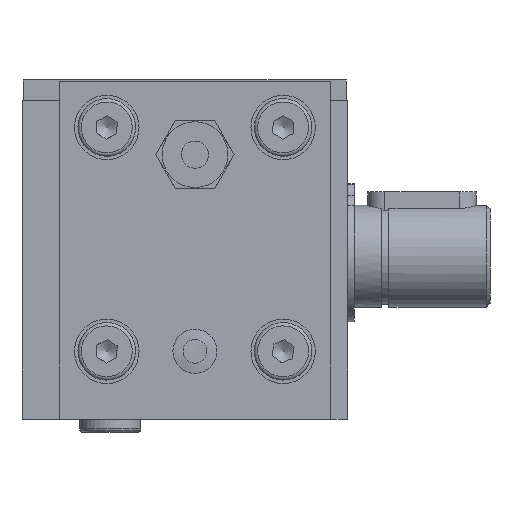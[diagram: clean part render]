
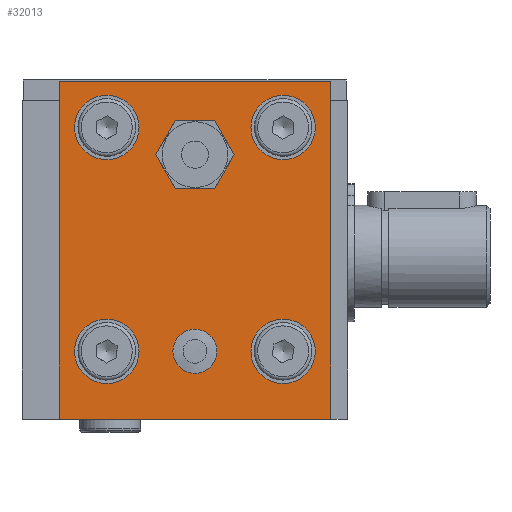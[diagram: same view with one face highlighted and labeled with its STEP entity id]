
A CAD part, front view. The second image highlights one B-rep face of the part: STEP entity #32013.
In plain terms, the highlighted planar face has unit normal (0, -1, 0).
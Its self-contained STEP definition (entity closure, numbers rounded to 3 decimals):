
#1667=LINE('',#43637,#4352);
#1668=LINE('',#43639,#4353);
#1669=LINE('',#43641,#4354);
#1670=LINE('',#43642,#4355);
#4352=VECTOR('',#36257,10.);
#4353=VECTOR('',#36258,10.);
#4354=VECTOR('',#36259,10.);
#4355=VECTOR('',#36260,10.);
#7134=FACE_BOUND('',#8952,.T.);
#7135=FACE_BOUND('',#8953,.T.);
#7136=FACE_BOUND('',#8954,.T.);
#7137=FACE_BOUND('',#8955,.T.);
#7138=FACE_BOUND('',#8956,.T.);
#7139=FACE_BOUND('',#8957,.T.);
#7280=FACE_OUTER_BOUND('',#8951,.T.);
#8951=EDGE_LOOP('',(#19524,#19525,#19526,#19527));
#8952=EDGE_LOOP('',(#19528,#19529));
#8953=EDGE_LOOP('',(#19530,#19531));
#8954=EDGE_LOOP('',(#19532,#19533));
#8955=EDGE_LOOP('',(#19534,#19535));
#8956=EDGE_LOOP('',(#19536,#19537));
#8957=EDGE_LOOP('',(#19538));
#10662=CIRCLE('',#33727,3.25);
#10663=CIRCLE('',#33728,3.25);
#10705=CIRCLE('',#33808,4.8);
#10706=CIRCLE('',#33818,4.75);
#10707=CIRCLE('',#33819,4.75);
#10708=CIRCLE('',#33820,4.75);
#10709=CIRCLE('',#33821,4.75);
#10710=CIRCLE('',#33822,4.75);
#10711=CIRCLE('',#33823,4.75);
#10712=CIRCLE('',#33824,4.75);
#10713=CIRCLE('',#33825,4.75);
#11256=VERTEX_POINT('',#43205);
#11257=VERTEX_POINT('',#43206);
#11349=VERTEX_POINT('',#43563);
#11362=VERTEX_POINT('',#43635);
#11363=VERTEX_POINT('',#43636);
#11364=VERTEX_POINT('',#43638);
#11365=VERTEX_POINT('',#43640);
#11366=VERTEX_POINT('',#43643);
#11367=VERTEX_POINT('',#43644);
#11368=VERTEX_POINT('',#43647);
#11369=VERTEX_POINT('',#43648);
#11370=VERTEX_POINT('',#43651);
#11371=VERTEX_POINT('',#43652);
#11372=VERTEX_POINT('',#43655);
#11373=VERTEX_POINT('',#43656);
#14476=EDGE_CURVE('',#11256,#11257,#10662,.T.);
#14477=EDGE_CURVE('',#11257,#11256,#10663,.T.);
#14604=EDGE_CURVE('',#11349,#11349,#10705,.T.);
#14627=EDGE_CURVE('',#11362,#11363,#1667,.T.);
#14628=EDGE_CURVE('',#11364,#11362,#1668,.T.);
#14629=EDGE_CURVE('',#11365,#11364,#1669,.T.);
#14630=EDGE_CURVE('',#11363,#11365,#1670,.T.);
#14631=EDGE_CURVE('',#11366,#11367,#10706,.T.);
#14632=EDGE_CURVE('',#11367,#11366,#10707,.T.);
#14633=EDGE_CURVE('',#11368,#11369,#10708,.T.);
#14634=EDGE_CURVE('',#11369,#11368,#10709,.T.);
#14635=EDGE_CURVE('',#11370,#11371,#10710,.T.);
#14636=EDGE_CURVE('',#11371,#11370,#10711,.T.);
#14637=EDGE_CURVE('',#11372,#11373,#10712,.T.);
#14638=EDGE_CURVE('',#11373,#11372,#10713,.T.);
#19524=ORIENTED_EDGE('',*,*,#14627,.F.);
#19525=ORIENTED_EDGE('',*,*,#14628,.F.);
#19526=ORIENTED_EDGE('',*,*,#14629,.F.);
#19527=ORIENTED_EDGE('',*,*,#14630,.F.);
#19528=ORIENTED_EDGE('',*,*,#14476,.T.);
#19529=ORIENTED_EDGE('',*,*,#14477,.T.);
#19530=ORIENTED_EDGE('',*,*,#14631,.T.);
#19531=ORIENTED_EDGE('',*,*,#14632,.T.);
#19532=ORIENTED_EDGE('',*,*,#14633,.T.);
#19533=ORIENTED_EDGE('',*,*,#14634,.T.);
#19534=ORIENTED_EDGE('',*,*,#14635,.T.);
#19535=ORIENTED_EDGE('',*,*,#14636,.T.);
#19536=ORIENTED_EDGE('',*,*,#14637,.T.);
#19537=ORIENTED_EDGE('',*,*,#14638,.T.);
#19538=ORIENTED_EDGE('',*,*,#14604,.T.);
#28885=PLANE('',#33817);
#32013=ADVANCED_FACE('',(#7280,#7134,#7135,#7136,#7137,#7138,#7139),#28885,
 .F.);
#33727=AXIS2_PLACEMENT_3D('',#43207,#36016,#36017);
#33728=AXIS2_PLACEMENT_3D('',#43208,#36018,#36019);
#33808=AXIS2_PLACEMENT_3D('',#43565,#36228,#36229);
#33817=AXIS2_PLACEMENT_3D('',#43634,#36255,#36256);
#33818=AXIS2_PLACEMENT_3D('',#43645,#36261,#36262);
#33819=AXIS2_PLACEMENT_3D('',#43646,#36263,#36264);
#33820=AXIS2_PLACEMENT_3D('',#43649,#36265,#36266);
#33821=AXIS2_PLACEMENT_3D('',#43650,#36267,#36268);
#33822=AXIS2_PLACEMENT_3D('',#43653,#36269,#36270);
#33823=AXIS2_PLACEMENT_3D('',#43654,#36271,#36272);
#33824=AXIS2_PLACEMENT_3D('',#43657,#36273,#36274);
#33825=AXIS2_PLACEMENT_3D('',#43658,#36275,#36276);
#36016=DIRECTION('center_axis',(0.,1.,0.));
#36017=DIRECTION('ref_axis',(0.748,0.,-0.663));
#36018=DIRECTION('center_axis',(0.,1.,0.));
#36019=DIRECTION('ref_axis',(0.748,0.,-0.663));
#36228=DIRECTION('center_axis',(0.,1.,0.));
#36229=DIRECTION('ref_axis',(0.5,0.,-0.866));
#36255=DIRECTION('center_axis',(0.,1.,0.));
#36256=DIRECTION('ref_axis',(0.,0.,
1.));
#36257=DIRECTION('',(-1.,0.,0.));
#36258=DIRECTION('',(0.,0.,-1.));
#36259=DIRECTION('',(1.,0.,0.));
#36260=DIRECTION('',(0.,0.,1.));
#36261=DIRECTION('center_axis',(0.,1.,0.));
#36262=DIRECTION('ref_axis',(1.,0.,0.));
#36263=DIRECTION('center_axis',(0.,1.,0.));
#36264=DIRECTION('ref_axis',(1.,0.,0.));
#36265=DIRECTION('center_axis',(0.,1.,0.));
#36266=DIRECTION('ref_axis',(1.,0.,0.));
#36267=DIRECTION('center_axis',(0.,1.,0.));
#36268=DIRECTION('ref_axis',(1.,0.,0.));
#36269=DIRECTION('center_axis',(0.,1.,0.));
#36270=DIRECTION('ref_axis',(1.,0.,0.));
#36271=DIRECTION('center_axis',(0.,1.,0.));
#36272=DIRECTION('ref_axis',(1.,0.,0.));
#36273=DIRECTION('center_axis',(0.,1.,0.));
#36274=DIRECTION('ref_axis',(1.,0.,0.));
#36275=DIRECTION('center_axis',(0.,1.,0.));
#36276=DIRECTION('ref_axis',(1.,0.,0.));
#43205=CARTESIAN_POINT('',(-21.101,-8.,3.318));
#43206=CARTESIAN_POINT('',(-25.964,-8.,7.631));
#43207=CARTESIAN_POINT('Origin',(-23.532,-8.,5.474));
#43208=CARTESIAN_POINT('Origin',(-23.532,-8.,5.474));
#43563=CARTESIAN_POINT('',(-25.932,-8.,38.631));
#43565=CARTESIAN_POINT('Origin',(-23.532,-8.,34.474));
#43634=CARTESIAN_POINT('Origin',(-23.532,-8.,20.374));
#43635=CARTESIAN_POINT('',(-3.532,-8.,-4.526));
#43636=CARTESIAN_POINT('',(-43.532,-8.,-4.526));
#43637=CARTESIAN_POINT('',(-3.532,-8.,-4.526));
#43638=CARTESIAN_POINT('',(-3.532,-8.,45.274));
#43639=CARTESIAN_POINT('',(-3.532,-8.,45.274));
#43640=CARTESIAN_POINT('',(-43.532,-8.,45.274));
#43641=CARTESIAN_POINT('',(-43.532,-8.,45.274));
#43642=CARTESIAN_POINT('',(-43.532,-8.,-4.526));
#43643=CARTESIAN_POINT('',(-31.782,-8.,5.474));
#43644=CARTESIAN_POINT('',(-41.282,-8.,5.474));
#43645=CARTESIAN_POINT('Origin',(-36.532,-8.,5.474));
#43646=CARTESIAN_POINT('Origin',(-36.532,-8.,5.474));
#43647=CARTESIAN_POINT('',(-5.782,-8.,38.474));
#43648=CARTESIAN_POINT('',(-15.282,-8.,38.474));
#43649=CARTESIAN_POINT('Origin',(-10.532,-8.,38.474));
#43650=CARTESIAN_POINT('Origin',(-10.532,-8.,38.474));
#43651=CARTESIAN_POINT('',(-31.782,-8.,38.474));
#43652=CARTESIAN_POINT('',(-41.282,-8.,38.474));
#43653=CARTESIAN_POINT('Origin',(-36.532,-8.,38.474));
#43654=CARTESIAN_POINT('Origin',(-36.532,-8.,38.474));
#43655=CARTESIAN_POINT('',(-5.782,-8.,5.474));
#43656=CARTESIAN_POINT('',(-15.282,-8.,5.474));
#43657=CARTESIAN_POINT('Origin',(-10.532,-8.,5.474));
#43658=CARTESIAN_POINT('Origin',(-10.532,-8.,5.474));
